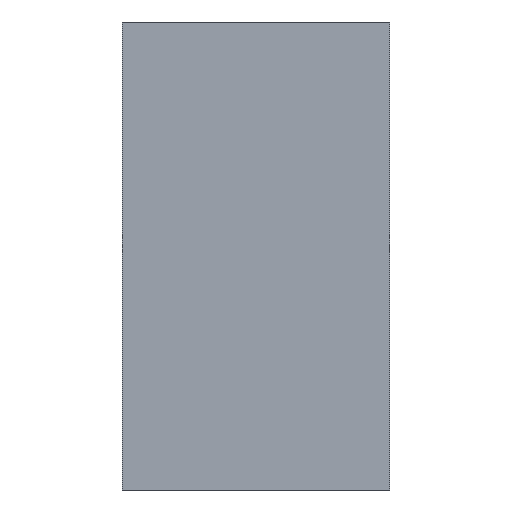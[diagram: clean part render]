
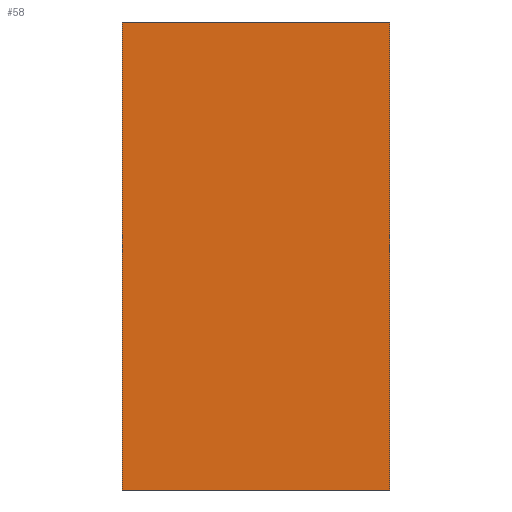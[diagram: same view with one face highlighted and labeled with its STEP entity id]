
A CAD part, left-side view. The second image highlights one B-rep face of the part: STEP entity #58.
In plain terms, the highlighted planar face has unit normal (-1, 0, 0).
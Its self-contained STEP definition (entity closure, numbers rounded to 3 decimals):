
#58 = ADVANCED_FACE('',(#59),#73,.F.);
#59 = FACE_BOUND('',#60,.F.);
#60 = EDGE_LOOP('',(#61,#96,#124,#152));
#61 = ORIENTED_EDGE('',*,*,#62,.F.);
#62 = EDGE_CURVE('',#63,#65,#67,.T.);
#63 = VERTEX_POINT('',#64);
#64 = CARTESIAN_POINT('',(0.,0.,0.));
#65 = VERTEX_POINT('',#66);
#66 = CARTESIAN_POINT('',(0.,0.,14.));
#67 = SURFACE_CURVE('',#68,(#72,#84),.PCURVE_S1.);
#68 = LINE('',#69,#70);
#69 = CARTESIAN_POINT('',(0.,0.,0.));
#70 = VECTOR('',#71,1.);
#71 = DIRECTION('',(0.,0.,1.));
#72 = PCURVE('',#73,#78);
#73 = PLANE('',#74);
#74 = AXIS2_PLACEMENT_3D('',#75,#76,#77);
#75 = CARTESIAN_POINT('',(0.,0.,0.));
#76 = DIRECTION('',(1.,0.,-0.));
#77 = DIRECTION('',(0.,0.,1.));
#78 = DEFINITIONAL_REPRESENTATION('',(#79),#83);
#79 = LINE('',#80,#81);
#80 = CARTESIAN_POINT('',(0.,0.));
#81 = VECTOR('',#82,1.);
#82 = DIRECTION('',(1.,0.));
#83 = ( GEOMETRIC_REPRESENTATION_CONTEXT(2) 
PARAMETRIC_REPRESENTATION_CONTEXT() REPRESENTATION_CONTEXT('2D SPACE',''
  ) );
#84 = PCURVE('',#85,#90);
#85 = PLANE('',#86);
#86 = AXIS2_PLACEMENT_3D('',#87,#88,#89);
#87 = CARTESIAN_POINT('',(0.,0.,0.));
#88 = DIRECTION('',(-0.,1.,0.));
#89 = DIRECTION('',(0.,0.,1.));
#90 = DEFINITIONAL_REPRESENTATION('',(#91),#95);
#91 = LINE('',#92,#93);
#92 = CARTESIAN_POINT('',(0.,0.));
#93 = VECTOR('',#94,1.);
#94 = DIRECTION('',(1.,0.));
#95 = ( GEOMETRIC_REPRESENTATION_CONTEXT(2) 
PARAMETRIC_REPRESENTATION_CONTEXT() REPRESENTATION_CONTEXT('2D SPACE',''
  ) );
#96 = ORIENTED_EDGE('',*,*,#97,.T.);
#97 = EDGE_CURVE('',#63,#98,#100,.T.);
#98 = VERTEX_POINT('',#99);
#99 = CARTESIAN_POINT('',(0.,8.,0.));
#100 = SURFACE_CURVE('',#101,(#105,#112),.PCURVE_S1.);
#101 = LINE('',#102,#103);
#102 = CARTESIAN_POINT('',(0.,0.,0.));
#103 = VECTOR('',#104,1.);
#104 = DIRECTION('',(-0.,1.,0.));
#105 = PCURVE('',#73,#106);
#106 = DEFINITIONAL_REPRESENTATION('',(#107),#111);
#107 = LINE('',#108,#109);
#108 = CARTESIAN_POINT('',(0.,0.));
#109 = VECTOR('',#110,1.);
#110 = DIRECTION('',(0.,-1.));
#111 = ( GEOMETRIC_REPRESENTATION_CONTEXT(2) 
PARAMETRIC_REPRESENTATION_CONTEXT() REPRESENTATION_CONTEXT('2D SPACE',''
  ) );
#112 = PCURVE('',#113,#118);
#113 = PLANE('',#114);
#114 = AXIS2_PLACEMENT_3D('',#115,#116,#117);
#115 = CARTESIAN_POINT('',(0.,0.,0.));
#116 = DIRECTION('',(0.,0.,1.));
#117 = DIRECTION('',(1.,0.,-0.));
#118 = DEFINITIONAL_REPRESENTATION('',(#119),#123);
#119 = LINE('',#120,#121);
#120 = CARTESIAN_POINT('',(0.,0.));
#121 = VECTOR('',#122,1.);
#122 = DIRECTION('',(0.,1.));
#123 = ( GEOMETRIC_REPRESENTATION_CONTEXT(2) 
PARAMETRIC_REPRESENTATION_CONTEXT() REPRESENTATION_CONTEXT('2D SPACE',''
  ) );
#124 = ORIENTED_EDGE('',*,*,#125,.T.);
#125 = EDGE_CURVE('',#98,#126,#128,.T.);
#126 = VERTEX_POINT('',#127);
#127 = CARTESIAN_POINT('',(0.,8.,14.));
#128 = SURFACE_CURVE('',#129,(#133,#140),.PCURVE_S1.);
#129 = LINE('',#130,#131);
#130 = CARTESIAN_POINT('',(0.,8.,0.));
#131 = VECTOR('',#132,1.);
#132 = DIRECTION('',(0.,0.,1.));
#133 = PCURVE('',#73,#134);
#134 = DEFINITIONAL_REPRESENTATION('',(#135),#139);
#135 = LINE('',#136,#137);
#136 = CARTESIAN_POINT('',(0.,-8.));
#137 = VECTOR('',#138,1.);
#138 = DIRECTION('',(1.,0.));
#139 = ( GEOMETRIC_REPRESENTATION_CONTEXT(2) 
PARAMETRIC_REPRESENTATION_CONTEXT() REPRESENTATION_CONTEXT('2D SPACE',''
  ) );
#140 = PCURVE('',#141,#146);
#141 = PLANE('',#142);
#142 = AXIS2_PLACEMENT_3D('',#143,#144,#145);
#143 = CARTESIAN_POINT('',(0.,8.,0.));
#144 = DIRECTION('',(-0.,1.,0.));
#145 = DIRECTION('',(0.,0.,1.));
#146 = DEFINITIONAL_REPRESENTATION('',(#147),#151);
#147 = LINE('',#148,#149);
#148 = CARTESIAN_POINT('',(0.,0.));
#149 = VECTOR('',#150,1.);
#150 = DIRECTION('',(1.,0.));
#151 = ( GEOMETRIC_REPRESENTATION_CONTEXT(2) 
PARAMETRIC_REPRESENTATION_CONTEXT() REPRESENTATION_CONTEXT('2D SPACE',''
  ) );
#152 = ORIENTED_EDGE('',*,*,#153,.F.);
#153 = EDGE_CURVE('',#65,#126,#154,.T.);
#154 = SURFACE_CURVE('',#155,(#159,#166),.PCURVE_S1.);
#155 = LINE('',#156,#157);
#156 = CARTESIAN_POINT('',(0.,0.,14.));
#157 = VECTOR('',#158,1.);
#158 = DIRECTION('',(-0.,1.,0.));
#159 = PCURVE('',#73,#160);
#160 = DEFINITIONAL_REPRESENTATION('',(#161),#165);
#161 = LINE('',#162,#163);
#162 = CARTESIAN_POINT('',(14.,0.));
#163 = VECTOR('',#164,1.);
#164 = DIRECTION('',(0.,-1.));
#165 = ( GEOMETRIC_REPRESENTATION_CONTEXT(2) 
PARAMETRIC_REPRESENTATION_CONTEXT() REPRESENTATION_CONTEXT('2D SPACE',''
  ) );
#166 = PCURVE('',#167,#172);
#167 = PLANE('',#168);
#168 = AXIS2_PLACEMENT_3D('',#169,#170,#171);
#169 = CARTESIAN_POINT('',(0.,0.,14.));
#170 = DIRECTION('',(0.,0.,1.));
#171 = DIRECTION('',(1.,0.,-0.));
#172 = DEFINITIONAL_REPRESENTATION('',(#173),#177);
#173 = LINE('',#174,#175);
#174 = CARTESIAN_POINT('',(0.,0.));
#175 = VECTOR('',#176,1.);
#176 = DIRECTION('',(0.,1.));
#177 = ( GEOMETRIC_REPRESENTATION_CONTEXT(2) 
PARAMETRIC_REPRESENTATION_CONTEXT() REPRESENTATION_CONTEXT('2D SPACE',''
  ) );
